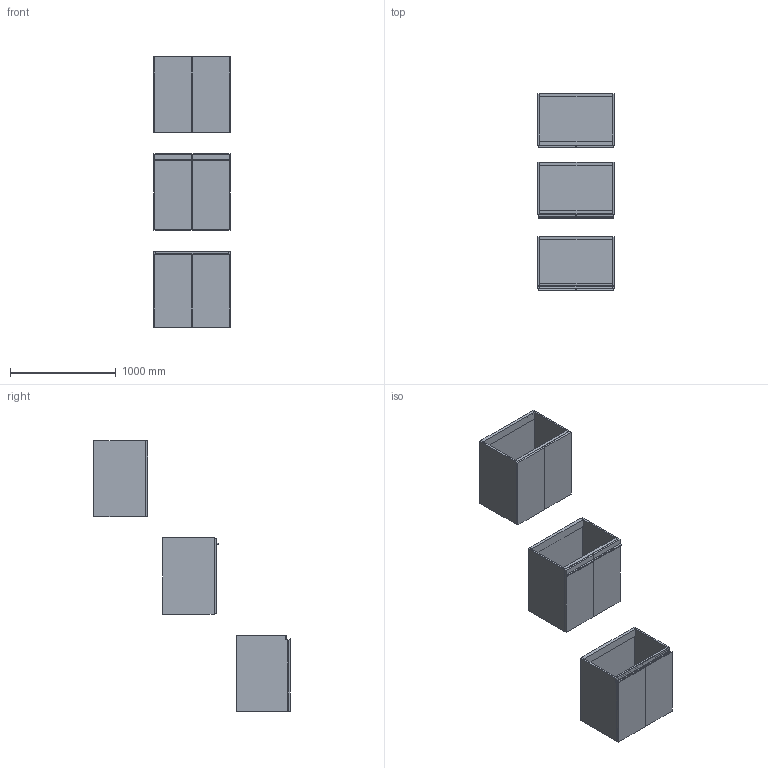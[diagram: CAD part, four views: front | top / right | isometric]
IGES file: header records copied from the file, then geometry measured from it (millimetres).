
Start section: Data from Parasolid IGES Translator 19.0.9, Copyright(c) 2006 Siemens PL M Software. All Rights Reserved.
Global section: file name: noorth-SI-H 72 D 51 W 72_8626.igs; native system: By Siemens PLM Incorporated; preprocessor: XPlus GENERIC/IGES 19.0.9; author: Noname; organization: Noname; date: 20200601.121749; units: metre
Bounding box: 720 x 1857.1 x 2560.01 mm (x, y, z)
Volume: 88799427.4 mm3; surface area: 13479586.2 mm2
Topology: 27 solids, 27 shells, 264 faces, 574 edges, 340 vertices
Faces by surface type: plane 180, cylinder 52, sphere 20, torus 12
